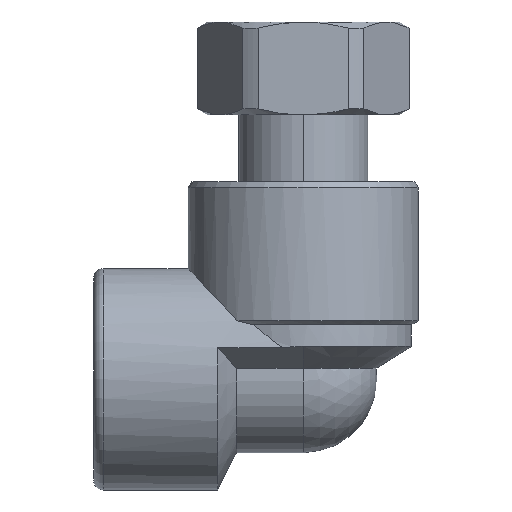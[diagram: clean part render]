
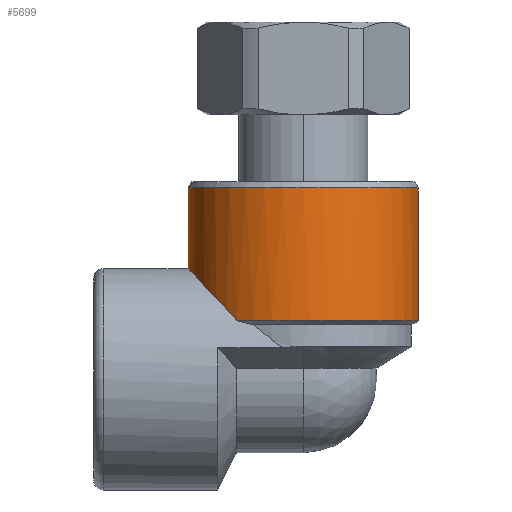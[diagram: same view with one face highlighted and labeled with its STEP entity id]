
A CAD part, left-side view. The second image highlights one B-rep face of the part: STEP entity #5699.
In plain terms, the highlighted cylindrical face has radius 17.95 mm (diameter 35.9 mm), a partial arc.
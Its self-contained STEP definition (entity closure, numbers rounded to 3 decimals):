
#102 = CARTESIAN_POINT ( 'NONE',  ( -17.95, 0., -8.55 ) ) ;
#596 = CARTESIAN_POINT ( 'NONE',  ( 16.26, -7.613, -15.511 ) ) ;
#639 = CARTESIAN_POINT ( 'NONE',  ( 17.895, -1.614, -17.218 ) ) ;
#642 = VECTOR ( 'NONE', #3533, 1000. ) ;
#966 = ORIENTED_EDGE ( 'NONE', *, *, #3340, .T. ) ;
#1020 = VERTEX_POINT ( 'NONE', #1926 ) ;
#1027 = CYLINDRICAL_SURFACE ( 'NONE', #5675, 17.95 ) ;
#1085 = CARTESIAN_POINT ( 'NONE',  ( 14.848, -10.11, -14.025 ) ) ;
#1195 = CARTESIAN_POINT ( 'NONE',  ( 15.763, -8.594, -14.99 ) ) ;
#1223 = CARTESIAN_POINT ( 'NONE',  ( 17.95, 0., -29.85 ) ) ;
#1230 = CARTESIAN_POINT ( 'NONE',  ( 17.518, -3.994, -16.825 ) ) ;
#1295 = CARTESIAN_POINT ( 'NONE',  ( 17.95, 0., -8.55 ) ) ;
#1302 = CARTESIAN_POINT ( 'NONE',  ( 17.95, 0., -17.275 ) ) ;
#1401 = ORIENTED_EDGE ( 'NONE', *, *, #5422, .T. ) ;
#1485 = CARTESIAN_POINT ( 'NONE',  ( 10.348, -14.667, -9.127 ) ) ;
#1635 = EDGE_CURVE ( 'NONE', #5230, #1020, #4179, .T. ) ;
#1744 = CARTESIAN_POINT ( 'NONE',  ( 15.933, -8.274, -15.169 ) ) ;
#1926 = CARTESIAN_POINT ( 'NONE',  ( -17.95, 0., -9.127 ) ) ;
#2111 = EDGE_LOOP ( 'NONE', ( #5606, #1401, #2784, #5664, #966 ) ) ;
#2217 = DIRECTION ( 'NONE',  ( -1., 0., 0. ) ) ;
#2280 = VECTOR ( 'NONE', #5245, 1000. ) ;
#2356 = CARTESIAN_POINT ( 'NONE',  ( 13.602, -11.718, -12.698 ) ) ;
#2514 = CIRCLE ( 'NONE', #3103, 17.95 ) ;
#2784 = ORIENTED_EDGE ( 'NONE', *, *, #1635, .T. ) ;
#2791 = DIRECTION ( 'NONE',  ( -1., 0., 0. ) ) ;
#2814 = DIRECTION ( 'NONE',  ( 0., 0., -1. ) ) ;
#2854 = B_SPLINE_CURVE_WITH_KNOTS ( 'NONE', 3,
 ( #3873, #6194, #639, #5110, #1230, #5736, #2917, #6830, #596, #1744, #1195, #5177, #1085, #6156, #3436, #2356, #3399, #3330, #5589, #3988 ),
 .UNSPECIFIED., .F., .F.,
 ( 4, 2, 2, 2, 2, 2, 2, 2, 2, 4 ),
 ( 0.02, 0.022, 0.025, 0.027, 0.028, 0.03, 0.032, 0.033, 0.034, 0.039 ),
 .UNSPECIFIED. ) ;
#2917 = CARTESIAN_POINT ( 'NONE',  ( 16.853, -6.226, -16.132 ) ) ;
#3051 = CARTESIAN_POINT ( 'NONE',  ( -17.95, 0., -29.85 ) ) ;
#3103 = AXIS2_PLACEMENT_3D ( 'NONE', #3599, #4201, #5524 ) ;
#3206 = VERTEX_POINT ( 'NONE', #1223 ) ;
#3263 = EDGE_CURVE ( 'NONE', #1020, #4416, #6224, .T. ) ;
#3268 = CARTESIAN_POINT ( 'NONE',  ( 0., 0., -8.55 ) ) ;
#3308 = EDGE_CURVE ( 'NONE', #5577, #3206, #3429, .T. ) ;
#3330 = CARTESIAN_POINT ( 'NONE',  ( 12.267, -13.17, -11.262 ) ) ;
#3340 = EDGE_CURVE ( 'NONE', #4416, #3206, #2514, .T. ) ;
#3399 = CARTESIAN_POINT ( 'NONE',  ( 13.382, -11.968, -12.462 ) ) ;
#3429 = LINE ( 'NONE', #1295, #642 ) ;
#3436 = CARTESIAN_POINT ( 'NONE',  ( 14.031, -11.201, -13.156 ) ) ;
#3533 = DIRECTION ( 'NONE',  ( 0., 0., -1. ) ) ;
#3599 = CARTESIAN_POINT ( 'NONE',  ( 0., 0., -29.85 ) ) ;
#3873 = CARTESIAN_POINT ( 'NONE',  ( 17.95, 0., -17.275 ) ) ;
#3988 = CARTESIAN_POINT ( 'NONE',  ( 10.348, -14.667, -9.127 ) ) ;
#4179 = CIRCLE ( 'NONE', #4549, 17.95 ) ;
#4201 = DIRECTION ( 'NONE',  ( 0., 0., 1. ) ) ;
#4416 = VERTEX_POINT ( 'NONE', #3051 ) ;
#4549 = AXIS2_PLACEMENT_3D ( 'NONE', #7315, #2814, #2217 ) ;
#5110 = CARTESIAN_POINT ( 'NONE',  ( 17.68, -3.203, -16.995 ) ) ;
#5177 = CARTESIAN_POINT ( 'NONE',  ( 15.23, -9.526, -14.429 ) ) ;
#5230 = VERTEX_POINT ( 'NONE', #1485 ) ;
#5245 = DIRECTION ( 'NONE',  ( 0., 0., -1. ) ) ;
#5422 = EDGE_CURVE ( 'NONE', #5577, #5230, #2854, .T. ) ;
#5523 = DIRECTION ( 'NONE',  ( 0., 0., -1. ) ) ;
#5524 = DIRECTION ( 'NONE',  ( 1., 0., 0. ) ) ;
#5577 = VERTEX_POINT ( 'NONE', #1302 ) ;
#5589 = CARTESIAN_POINT ( 'NONE',  ( 11.321, -13.98, -10.231 ) ) ;
#5606 = ORIENTED_EDGE ( 'NONE', *, *, #3308, .F. ) ;
#5664 = ORIENTED_EDGE ( 'NONE', *, *, #3263, .T. ) ;
#5675 = AXIS2_PLACEMENT_3D ( 'NONE', #3268, #5523, #2791 ) ;
#5699 = ADVANCED_FACE ( 'NONE', ( #6654 ), #1027, .T. ) ;
#5736 = CARTESIAN_POINT ( 'NONE',  ( 17.104, -5.502, -16.394 ) ) ;
#6156 = CARTESIAN_POINT ( 'NONE',  ( 14.239, -10.934, -13.379 ) ) ;
#6194 = CARTESIAN_POINT ( 'NONE',  ( 17.95, -0.811, -17.275 ) ) ;
#6224 = LINE ( 'NONE', #102, #2280 ) ;
#6654 = FACE_OUTER_BOUND ( 'NONE', #2111, .T. ) ;
#6830 = CARTESIAN_POINT ( 'NONE',  ( 16.416, -7.271, -15.675 ) ) ;
#7315 = CARTESIAN_POINT ( 'NONE',  ( 0., 0., -9.127 ) ) ;
